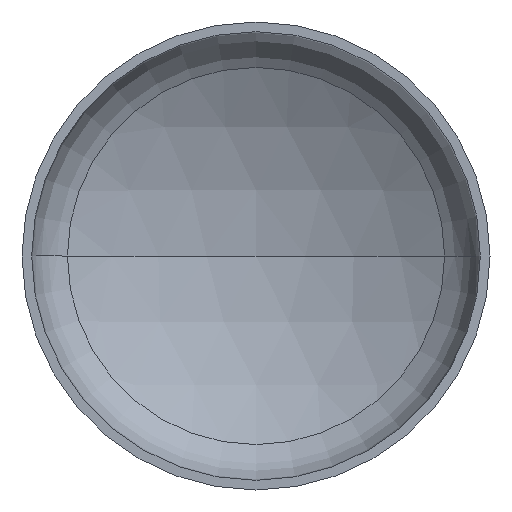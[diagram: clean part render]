
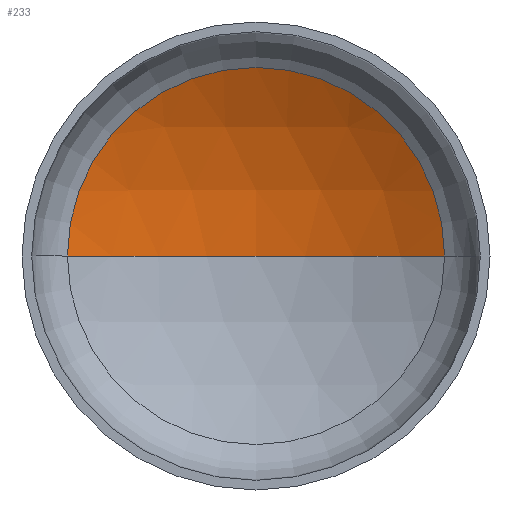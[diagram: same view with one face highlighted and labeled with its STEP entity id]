
A CAD part, front view. The second image highlights one B-rep face of the part: STEP entity #233.
In plain terms, the highlighted spherical face has radius 1040 mm.
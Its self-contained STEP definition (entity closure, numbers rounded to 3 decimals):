
#1 = CARTESIAN_POINT ( 'NONE',  ( 0., 399.279, 0. ) ) ;
#7 = DIRECTION ( 'NONE',  ( 0., 0., -1. ) ) ;
#16 = AXIS2_PLACEMENT_3D ( 'NONE', #279, #93, #96 ) ;
#19 = AXIS2_PLACEMENT_3D ( 'NONE', #147, #154, #309 ) ;
#21 = AXIS2_PLACEMENT_3D ( 'NONE', #91, #139, #131 ) ;
#40 = CARTESIAN_POINT ( 'NONE',  ( 0., -640.721, 0. ) ) ;
#42 = AXIS2_PLACEMENT_3D ( 'NONE', #40, #7, #302 ) ;
#45 = EDGE_LOOP ( 'NONE', ( #73, #246, #171 ) ) ;
#73 = ORIENTED_EDGE ( 'NONE', *, *, #347, .F. ) ;
#77 = SPHERICAL_SURFACE ( 'NONE', #42, 1040. ) ;
#91 = CARTESIAN_POINT ( 'NONE',  ( 0., 257.791, 0. ) ) ;
#93 = DIRECTION ( 'NONE',  ( 0., 0., 1. ) ) ;
#96 = DIRECTION ( 'NONE',  ( 1., 0., 0. ) ) ;
#111 = VERTEX_POINT ( 'NONE', #292 ) ;
#113 = VERTEX_POINT ( 'NONE', #291 ) ;
#131 = DIRECTION ( 'NONE',  ( 1., 0., 0. ) ) ;
#139 = DIRECTION ( 'NONE',  ( 0., -1., 0. ) ) ;
#147 = CARTESIAN_POINT ( 'NONE',  ( 0., -640.721, 0. ) ) ;
#154 = DIRECTION ( 'NONE',  ( 0., 0., -1. ) ) ;
#155 = CIRCLE ( 'NONE', #19, 1040. ) ;
#171 = ORIENTED_EDGE ( 'NONE', *, *, #340, .T. ) ;
#189 = VERTEX_POINT ( 'NONE', #1 ) ;
#233 = ADVANCED_FACE ( 'NONE', ( #385 ), #77, .F. ) ;
#236 = CIRCLE ( 'NONE', #21, 523.714 ) ;
#246 = ORIENTED_EDGE ( 'NONE', *, *, #345, .T. ) ;
#279 = CARTESIAN_POINT ( 'NONE',  ( 0., -640.721, 0. ) ) ;
#288 = CIRCLE ( 'NONE', #16, 1040. ) ;
#291 = CARTESIAN_POINT ( 'NONE',  ( 523.714, 257.791, 0. ) ) ;
#292 = CARTESIAN_POINT ( 'NONE',  ( -523.714, 257.791, 0. ) ) ;
#302 = DIRECTION ( 'NONE',  ( -1., 0., 0. ) ) ;
#309 = DIRECTION ( 'NONE',  ( -1., 0., 0. ) ) ;
#340 = EDGE_CURVE ( 'NONE', #113, #111, #236, .T. ) ;
#345 = EDGE_CURVE ( 'NONE', #189, #113, #155, .T. ) ;
#347 = EDGE_CURVE ( 'NONE', #189, #111, #288, .T. ) ;
#385 = FACE_OUTER_BOUND ( 'NONE', #45, .T. ) ;
